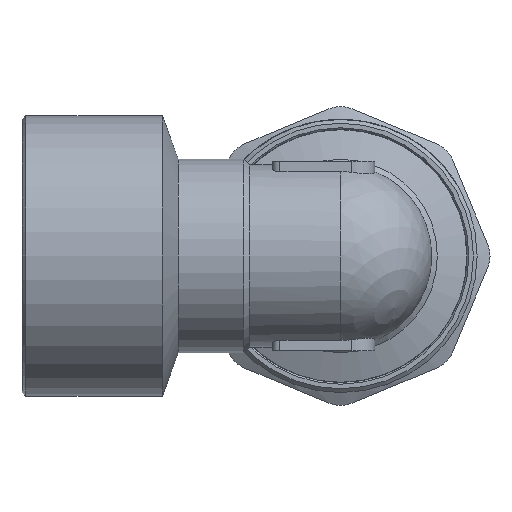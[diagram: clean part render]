
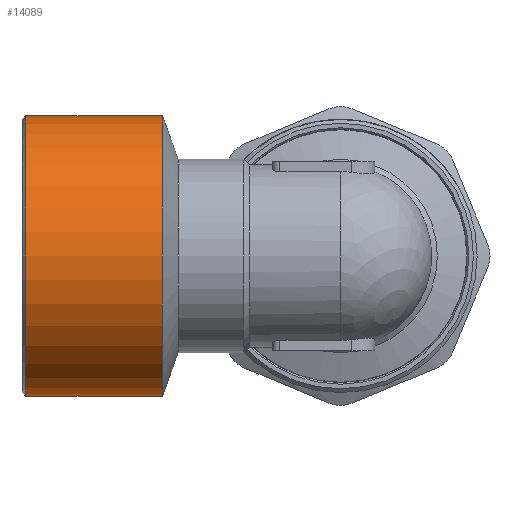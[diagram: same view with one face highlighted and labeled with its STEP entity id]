
A CAD part, left-side view. The second image highlights one B-rep face of the part: STEP entity #14089.
In plain terms, the highlighted cylindrical face has radius 18.5 mm (diameter 37 mm), a full revolution.
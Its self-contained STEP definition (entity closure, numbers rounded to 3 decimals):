
#824=CIRCLE('',#14923,18.5);
#825=CIRCLE('',#14924,18.5);
#826=CIRCLE('',#14926,18.5);
#827=CIRCLE('',#14927,18.5);
#1251=FACE_OUTER_BOUND('',#2049,.T.);
#2049=EDGE_LOOP('',(#10199,#10200,#10201,#10202,#10203,#10204));
#3901=LINE('',#21753,#4899);
#4899=VECTOR('',#16093,18.5);
#5923=VERTEX_POINT('',#21743);
#5924=VERTEX_POINT('',#21744);
#5925=VERTEX_POINT('',#21749);
#5926=VERTEX_POINT('',#21750);
#7564=EDGE_CURVE('',#5923,#5924,#824,.T.);
#7565=EDGE_CURVE('',#5924,#5923,#825,.T.);
#7567=EDGE_CURVE('',#5925,#5926,#826,.T.);
#7568=EDGE_CURVE('',#5926,#5925,#827,.T.);
#7569=EDGE_CURVE('',#5926,#5924,#3901,.T.);
#10199=ORIENTED_EDGE('',*,*,#7567,.F.);
#10200=ORIENTED_EDGE('',*,*,#7568,.F.);
#10201=ORIENTED_EDGE('',*,*,#7569,.T.);
#10202=ORIENTED_EDGE('',*,*,#7565,.T.);
#10203=ORIENTED_EDGE('',*,*,#7564,.T.);
#10204=ORIENTED_EDGE('',*,*,#7569,.F.);
#13869=CYLINDRICAL_SURFACE('',#14925,18.5);
#14089=ADVANCED_FACE('',(#1251),#13869,.T.);
#14923=AXIS2_PLACEMENT_3D('',#21745,#16082,#16083);
#14924=AXIS2_PLACEMENT_3D('',#21746,#16084,#16085);
#14925=AXIS2_PLACEMENT_3D('',#21748,#16087,#16088);
#14926=AXIS2_PLACEMENT_3D('',#21751,#16089,#16090);
#14927=AXIS2_PLACEMENT_3D('',#21752,#16091,#16092);
#16082=DIRECTION('center_axis',(0.,1.,0.));
#16083=DIRECTION('ref_axis',(1.,0.,0.));
#16084=DIRECTION('center_axis',(0.,1.,0.));
#16085=DIRECTION('ref_axis',(1.,0.,0.));
#16087=DIRECTION('center_axis',(0.,1.,0.));
#16088=DIRECTION('ref_axis',(-1.,0.,0.));
#16089=DIRECTION('center_axis',(0.,1.,0.));
#16090=DIRECTION('ref_axis',(1.,0.,0.));
#16091=DIRECTION('center_axis',(0.,1.,0.));
#16092=DIRECTION('ref_axis',(1.,0.,0.));
#16093=DIRECTION('',(0.,-1.,0.));
#21743=CARTESIAN_POINT('',(-18.5,23.5,0.));
#21744=CARTESIAN_POINT('',(18.5,23.5,0.));
#21745=CARTESIAN_POINT('Origin',(0.,23.5,0.));
#21746=CARTESIAN_POINT('Origin',(0.,23.5,0.));
#21748=CARTESIAN_POINT('Origin',(0.,32.5,0.));
#21749=CARTESIAN_POINT('',(-18.5,41.5,0.));
#21750=CARTESIAN_POINT('',(18.5,41.5,0.));
#21751=CARTESIAN_POINT('Origin',(0.,41.5,
0.));
#21752=CARTESIAN_POINT('Origin',(0.,41.5,
0.));
#21753=CARTESIAN_POINT('',(18.5,32.5,0.));
